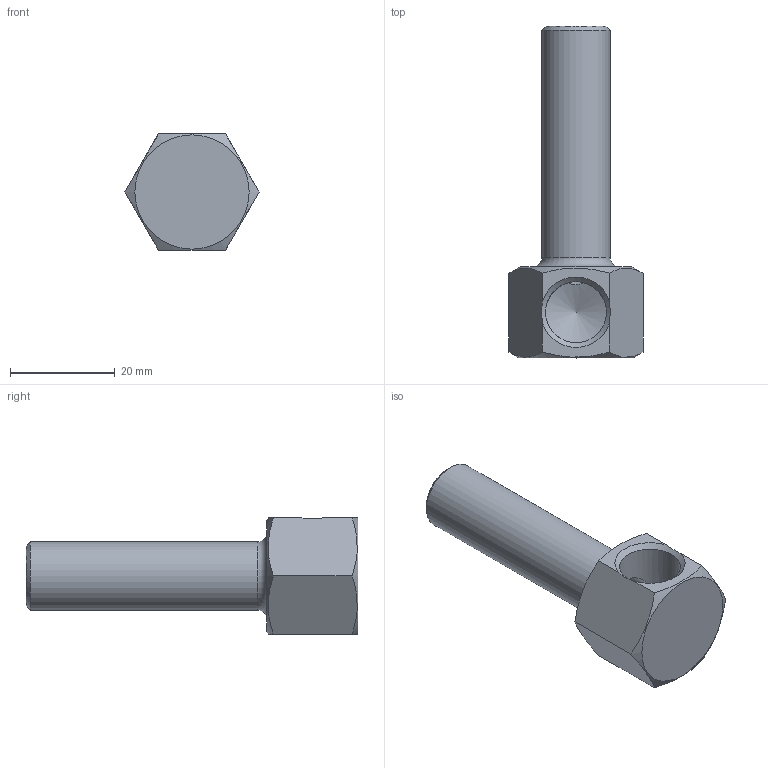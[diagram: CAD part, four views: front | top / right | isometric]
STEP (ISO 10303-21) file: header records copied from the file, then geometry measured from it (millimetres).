
FILE_DESCRIPTION(/* description */ (''),/* implementation_level */ '2;1');
FILE_NAME(/* name */ 'C:/Users/drich/Desktop/14B-2-1_2 v1.step',/* time_stamp */ '2019-12-29T15:16:43-06:00',/* author */ (''),/* organization */ (''),/* preprocessor_version */ 'ST-DEVELOPER v18',/* originating_system */ 'Autodesk Translation Framework v8.12.0.6',/* authorisation */ '');
FILE_SCHEMA (('AUTOMOTIVE_DESIGN { 1 0 10303 214 3 1 1 }'));
Length unit declared in the file: inch
Products named in the file (1): 14B-2-1_2
Bounding box: 25.66 x 63.5 x 22.23 mm (x, y, z)
Volume: 8907.4 mm3; surface area: 5755.4 mm2
Topology: 1 solids, 1 shells, 20 faces, 55 edges, 36 vertices
Faces by surface type: plane 10, cone 6, cylinder 3, torus 1
Full cylindrical faces by diameter (mm): 8.712 x1, 11.668 x1, 13.032 x1
Entity records: 710 total; most frequent: CARTESIAN_POINT 197, ORIENTED_EDGE 108, DIRECTION 93, EDGE_CURVE 54, AXIS2_PLACEMENT_3D 38, VERTEX_POINT 36, EDGE_LOOP 22, FACE_OUTER_BOUND 20
